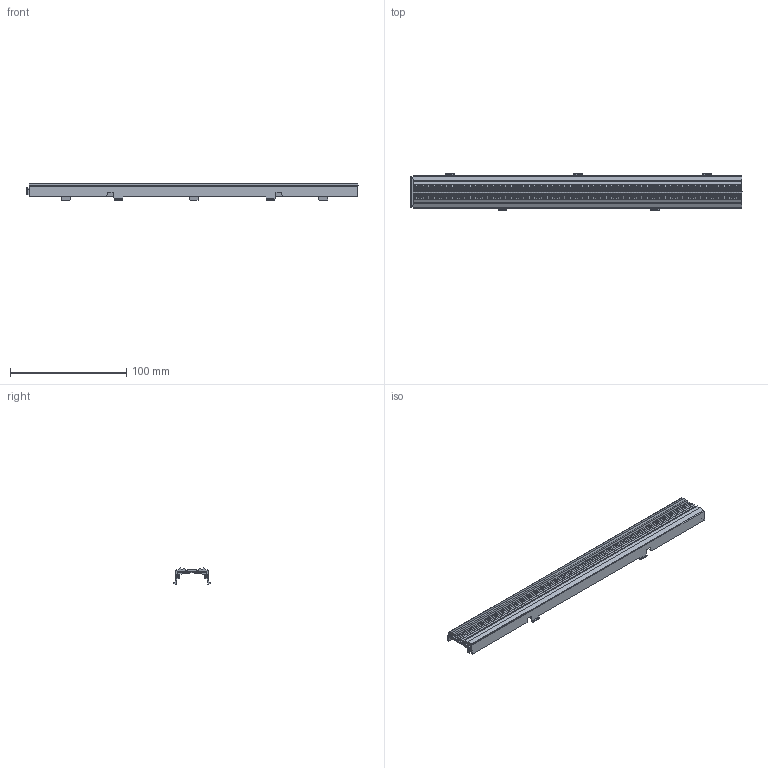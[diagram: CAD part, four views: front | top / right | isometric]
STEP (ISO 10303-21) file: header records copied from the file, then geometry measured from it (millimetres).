
FILE_DESCRIPTION((''),'2;1');
FILE_NAME('SN100XX-L280J90L-V2-20191225','2022-11-08T09:36:53',('Administrator'),(''),'CREO PARAMETRIC BY PTC INC, 2018020','CREO PARAMETRIC BY PTC INC, 2018020','');
FILE_SCHEMA(('CONFIG_CONTROL_DESIGN'));
Length unit declared in the file: millimetre
Products named in the file (1): SN100XX-L280J90L-V2-20191225
Bounding box: 285.07 x 31.61 x 13.82 mm (x, y, z)
Volume: 25055.3 mm3; surface area: 27617.4 mm2
Topology: 1 solids, 1 shells, 952 faces, 2850 edges, 1900 vertices
Faces by surface type: cone 802, plane 136, cylinder 10, extrusion 4
Entity records: 32776 total; most frequent: CARTESIAN_POINT 7521, ORIENTED_EDGE 5700, DIRECTION 5130, EDGE_CURVE 2850, AXIS2_PLACEMENT_3D 2163, VERTEX_POINT 1900, CIRCLE 1215, EDGE_LOOP 952
